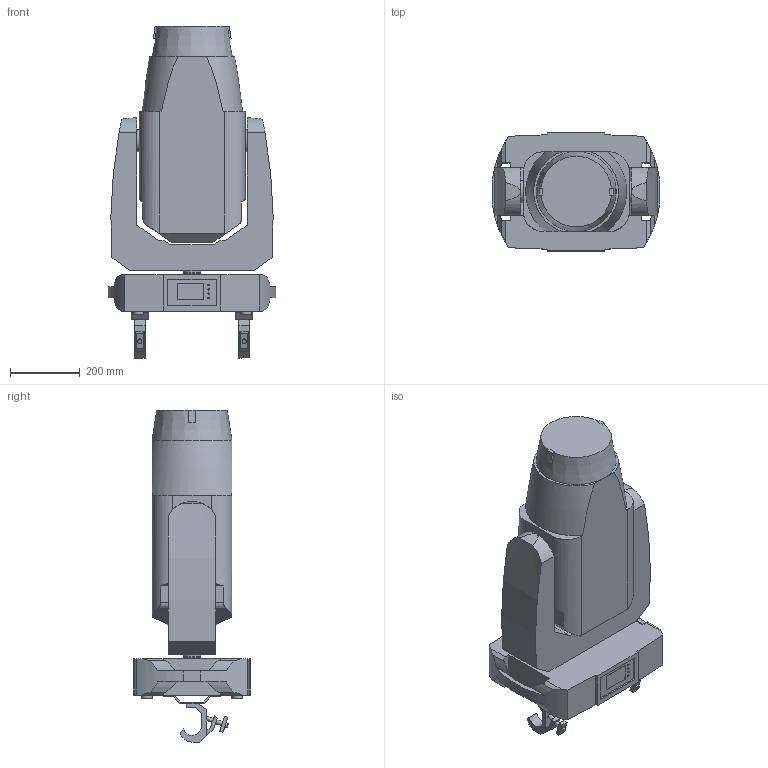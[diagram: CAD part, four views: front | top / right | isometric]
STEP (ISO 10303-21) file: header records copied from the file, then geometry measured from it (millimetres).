
FILE_DESCRIPTION(/* description */ ('Unknown'),/* implementation_level */ '2;1');
FILE_NAME(/* name */ '3D_BMFL_W_WB',/* time_stamp */ '2018-06-27T10:57:37+02:00',/* author */ ('Unknown'),/* organization */ ('Unknown'),/* preprocessor_version */ 'ST-DEVELOPER v16.7',/* originating_system */ 'DEX',/* authorisation */ $);
FILE_SCHEMA (('AUTOMOTIVE_DESIGN {1 0 10303 214 3 1 1}'));
Length unit declared in the file: millimetre
Products named in the file (7): 3D_BMFL_W_WB; BMFL_base; BMFL_arm; Omega_SlimClamp_00; Omega+SlimClamp; Clamp Doughty Slimline QT; BMFL_head_W_WB
Assembly tree (7 placements, depth 3):
  3D_BMFL_W_WB
    BMFL_base
    BMFL_arm
    Omega_SlimClamp_00  x2
      Omega+SlimClamp
      Clamp Doughty Slimline QT
    BMFL_head_W_WB
Bounding box: 482.55 x 339.31 x 955.01 mm (x, y, z)
Volume: 62310225.4 mm3; surface area: 1756977.3 mm2
Topology: 7 solids, 7 shells, 284 faces, 717 edges, 481 vertices
Faces by surface type: plane 208, cylinder 73, torus 2, cone 1
Full cylindrical faces by diameter (mm): 4.153 x4, 10 x10, 11 x4, 12 x8, 13 x2, 20.926 x6, 30 x4, 34 x2, 50 x2, 63 x1
Entity records: 7030 total; most frequent: CARTESIAN_POINT 1350, DIRECTION 1136, ORIENTED_EDGE 1072, EDGE_CURVE 536, AXIS2_PLACEMENT_3D 392, VERTEX_POINT 380, LINE 352, VECTOR 352
